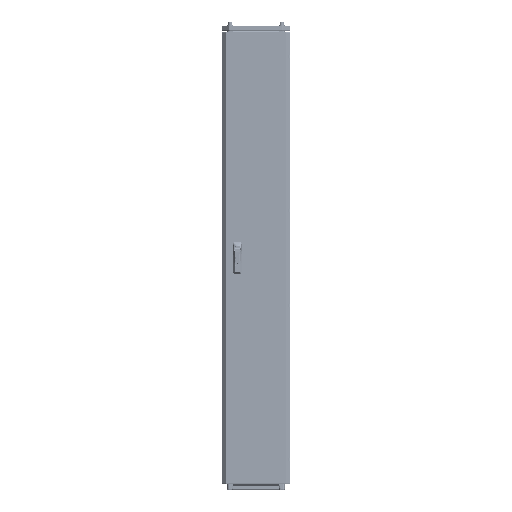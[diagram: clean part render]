
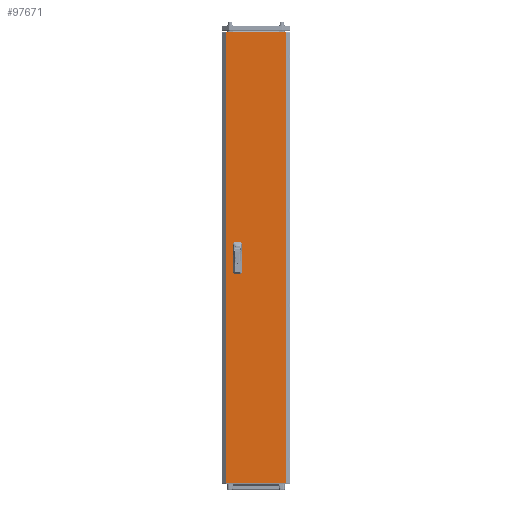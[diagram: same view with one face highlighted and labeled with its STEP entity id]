
A CAD part, top view. The second image highlights one B-rep face of the part: STEP entity #97671.
In plain terms, the highlighted planar face has unit normal (0, 0, 1).
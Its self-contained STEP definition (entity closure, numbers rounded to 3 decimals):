
#914 = CARTESIAN_POINT ( 'NONE',  ( 127.875, 969.5, 0. ) ) ;
#4030 = CARTESIAN_POINT ( 'NONE',  ( -67.5, -12.5, 0. ) ) ;
#4102 = DIRECTION ( 'NONE',  ( 1., 0., 0. ) ) ;
#5719 = ORIENTED_EDGE ( 'NONE', *, *, #132311, .F. ) ;
#11741 = VECTOR ( 'NONE', #98974, 1000. ) ;
#12626 = CARTESIAN_POINT ( 'NONE',  ( -67.5, -62.5, 0. ) ) ;
#12910 = VERTEX_POINT ( 'NONE', #40304 ) ;
#20365 = LINE ( 'NONE', #137976, #37177 ) ;
#22650 = CARTESIAN_POINT ( 'NONE',  ( -92.5, -62.5, 0. ) ) ;
#22917 = LINE ( 'NONE', #99241, #174518 ) ;
#26169 = VECTOR ( 'NONE', #62462, 1000. ) ;
#29791 = EDGE_CURVE ( 'NONE', #245850, #246528, #41442, .T. ) ;
#31486 = CARTESIAN_POINT ( 'NONE',  ( -127.875, 969.5, 0. ) ) ;
#33863 = FACE_BOUND ( 'NONE', #146795, .T. ) ;
#34301 = CARTESIAN_POINT ( 'NONE',  ( -67.5, 62.5, 0. ) ) ;
#37177 = VECTOR ( 'NONE', #61664, 1000. ) ;
#38787 = ORIENTED_EDGE ( 'NONE', *, *, #29791, .F. ) ;
#39562 = CARTESIAN_POINT ( 'NONE',  ( -67.5, 12.5, 0. ) ) ;
#40304 = CARTESIAN_POINT ( 'NONE',  ( -127.875, -969.5, 0. ) ) ;
#41442 = LINE ( 'NONE', #22650, #11741 ) ;
#45713 = EDGE_CURVE ( 'NONE', #76158, #48621, #100090, .T. ) ;
#47564 = LINE ( 'NONE', #220170, #148810 ) ;
#48621 = VERTEX_POINT ( 'NONE', #178828 ) ;
#49438 = ORIENTED_EDGE ( 'NONE', *, *, #239007, .T. ) ;
#50008 = DIRECTION ( 'NONE',  ( 0., -1., 0. ) ) ;
#51423 = DIRECTION ( 'NONE',  ( 0., 0., -1. ) ) ;
#60925 = VECTOR ( 'NONE', #176452, 1000. ) ;
#61664 = DIRECTION ( 'NONE',  ( 0., 1., 0. ) ) ;
#62462 = DIRECTION ( 'NONE',  ( 0., -1., 0. ) ) ;
#62904 = CARTESIAN_POINT ( 'NONE',  ( -92.5, 12.5, 0. ) ) ;
#63842 = DIRECTION ( 'NONE',  ( 0., -1., 0. ) ) ;
#64188 = LINE ( 'NONE', #140478, #142173 ) ;
#70229 = CARTESIAN_POINT ( 'NONE',  ( 0., 0., 0. ) ) ;
#70553 = ORIENTED_EDGE ( 'NONE', *, *, #139675, .T. ) ;
#76158 = VERTEX_POINT ( 'NONE', #4030 ) ;
#76966 = VECTOR ( 'NONE', #230121, 1000. ) ;
#77130 = VECTOR ( 'NONE', #242130, 1000. ) ;
#82601 = EDGE_CURVE ( 'NONE', #246528, #76158, #232578, .T. ) ;
#97671 = ADVANCED_FACE ( 'NONE', ( #33863, #246532, #126517 ), #202830, .F. ) ;
#98539 = VERTEX_POINT ( 'NONE', #62904 ) ;
#98974 = DIRECTION ( 'NONE',  ( 1., 0., 0. ) ) ;
#99241 = CARTESIAN_POINT ( 'NONE',  ( -92.5, 12.5, 0. ) ) ;
#99575 = ORIENTED_EDGE ( 'NONE', *, *, #152367, .F. ) ;
#100090 = LINE ( 'NONE', #171532, #60925 ) ;
#101319 = ORIENTED_EDGE ( 'NONE', *, *, #45713, .F. ) ;
#105328 = DIRECTION ( 'NONE',  ( -1., 0., 0. ) ) ;
#114531 = CARTESIAN_POINT ( 'NONE',  ( -92.5, 62.5, 0. ) ) ;
#122228 = EDGE_LOOP ( 'NONE', ( #101319, #143732, #38787, #225464 ) ) ;
#125563 = VECTOR ( 'NONE', #128088, 1000. ) ;
#126517 = FACE_OUTER_BOUND ( 'NONE', #239720, .T. ) ;
#127318 = ORIENTED_EDGE ( 'NONE', *, *, #242413, .F. ) ;
#127740 = DIRECTION ( 'NONE',  ( -1., 0., 0. ) ) ;
#128088 = DIRECTION ( 'NONE',  ( 1., 0., 0. ) ) ;
#130223 = EDGE_CURVE ( 'NONE', #186751, #12910, #141383, .T. ) ;
#131907 = VERTEX_POINT ( 'NONE', #114531 ) ;
#132311 = EDGE_CURVE ( 'NONE', #213424, #215522, #20365, .T. ) ;
#136990 = CARTESIAN_POINT ( 'NONE',  ( -92.5, -62.5, 0. ) ) ;
#137534 = LINE ( 'NONE', #233858, #26169 ) ;
#137976 = CARTESIAN_POINT ( 'NONE',  ( -67.5, 12.5, 0. ) ) ;
#139675 = EDGE_CURVE ( 'NONE', #177870, #186751, #226319, .T. ) ;
#140478 = CARTESIAN_POINT ( 'NONE',  ( 127.875, -969.5, 0. ) ) ;
#141383 = LINE ( 'NONE', #197681, #235757 ) ;
#142173 = VECTOR ( 'NONE', #216789, 1000. ) ;
#143732 = ORIENTED_EDGE ( 'NONE', *, *, #82601, .F. ) ;
#145321 = EDGE_CURVE ( 'NONE', #131907, #98539, #137534, .T. ) ;
#146795 = EDGE_LOOP ( 'NONE', ( #99575, #5719, #127318, #246949 ) ) ;
#148810 = VECTOR ( 'NONE', #50008, 1000. ) ;
#152367 = EDGE_CURVE ( 'NONE', #215522, #131907, #222164, .T. ) ;
#161996 = LINE ( 'NONE', #238263, #125563 ) ;
#162690 = CARTESIAN_POINT ( 'NONE',  ( -127.875, 969.5, 0. ) ) ;
#166441 = ORIENTED_EDGE ( 'NONE', *, *, #225094, .T. ) ;
#171532 = CARTESIAN_POINT ( 'NONE',  ( -92.5, -12.5, 0. ) ) ;
#172593 = CARTESIAN_POINT ( 'NONE',  ( -67.5, -62.5, 0. ) ) ;
#174518 = VECTOR ( 'NONE', #4102, 1000. ) ;
#176452 = DIRECTION ( 'NONE',  ( -1., 0., 0. ) ) ;
#177870 = VERTEX_POINT ( 'NONE', #914 ) ;
#178828 = CARTESIAN_POINT ( 'NONE',  ( -92.5, -12.5, 0. ) ) ;
#180959 = CARTESIAN_POINT ( 'NONE',  ( -92.5, 62.5, 0. ) ) ;
#186751 = VERTEX_POINT ( 'NONE', #162690 ) ;
#194488 = VERTEX_POINT ( 'NONE', #220638 ) ;
#197681 = CARTESIAN_POINT ( 'NONE',  ( -127.875, -969.5, 0. ) ) ;
#202830 = PLANE ( 'NONE',  #204619 ) ;
#204619 = AXIS2_PLACEMENT_3D ( 'NONE', #70229, #51423, #127740 ) ;
#205264 = ORIENTED_EDGE ( 'NONE', *, *, #130223, .T. ) ;
#213424 = VERTEX_POINT ( 'NONE', #39562 ) ;
#215522 = VERTEX_POINT ( 'NONE', #34301 ) ;
#216789 = DIRECTION ( 'NONE',  ( 0., 1., 0. ) ) ;
#220170 = CARTESIAN_POINT ( 'NONE',  ( -92.5, -62.5, 0. ) ) ;
#220638 = CARTESIAN_POINT ( 'NONE',  ( 127.875, -969.5, 0. ) ) ;
#221448 = EDGE_CURVE ( 'NONE', #48621, #245850, #47564, .T. ) ;
#222164 = LINE ( 'NONE', #180959, #77130 ) ;
#225094 = EDGE_CURVE ( 'NONE', #12910, #194488, #161996, .T. ) ;
#225464 = ORIENTED_EDGE ( 'NONE', *, *, #221448, .F. ) ;
#226319 = LINE ( 'NONE', #31486, #238725 ) ;
#230121 = DIRECTION ( 'NONE',  ( 0., 1., 0. ) ) ;
#232578 = LINE ( 'NONE', #172593, #76966 ) ;
#233858 = CARTESIAN_POINT ( 'NONE',  ( -92.5, 12.5, 0. ) ) ;
#235757 = VECTOR ( 'NONE', #63842, 1000. ) ;
#238263 = CARTESIAN_POINT ( 'NONE',  ( -127.875, -969.5, 0. ) ) ;
#238725 = VECTOR ( 'NONE', #105328, 1000. ) ;
#239007 = EDGE_CURVE ( 'NONE', #194488, #177870, #64188, .T. ) ;
#239720 = EDGE_LOOP ( 'NONE', ( #49438, #70553, #205264, #166441 ) ) ;
#242130 = DIRECTION ( 'NONE',  ( -1., 0., 0. ) ) ;
#242413 = EDGE_CURVE ( 'NONE', #98539, #213424, #22917, .T. ) ;
#245850 = VERTEX_POINT ( 'NONE', #136990 ) ;
#246528 = VERTEX_POINT ( 'NONE', #12626 ) ;
#246532 = FACE_BOUND ( 'NONE', #122228, .T. ) ;
#246949 = ORIENTED_EDGE ( 'NONE', *, *, #145321, .F. ) ;
